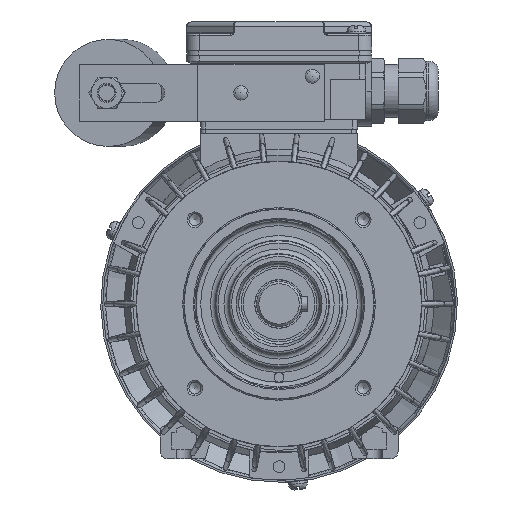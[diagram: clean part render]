
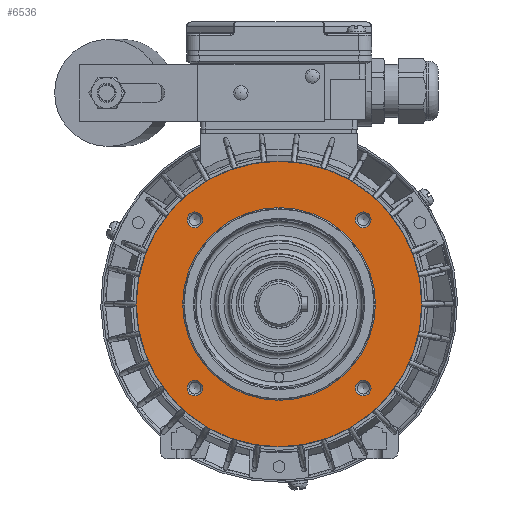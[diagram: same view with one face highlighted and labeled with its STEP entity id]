
A CAD part, left-side view. The second image highlights one B-rep face of the part: STEP entity #6536.
In plain terms, the highlighted planar face has unit normal (-1, 0, 0) as drawn and (0, -1, 0) by its records, which use the part's own axes.
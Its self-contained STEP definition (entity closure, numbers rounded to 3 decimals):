
#6536 = ADVANCED_FACE( '', ( #13790, #13791, #13792, #13793, #13794, #13795 ), #13796, .T. );
#13790 = FACE_BOUND( '', #34993, .T. );
#13791 = FACE_BOUND( '', #34994, .T. );
#13792 = FACE_BOUND( '', #34995, .T. );
#13793 = FACE_BOUND( '', #34996, .T. );
#13794 = FACE_BOUND( '', #34997, .T. );
#13795 = FACE_OUTER_BOUND( '', #34998, .T. );
#13796 = PLANE( '', #34999 );
#34993 = EDGE_LOOP( '', ( #61228 ) );
#34994 = EDGE_LOOP( '', ( #61229 ) );
#34995 = EDGE_LOOP( '', ( #61230 ) );
#34996 = EDGE_LOOP( '', ( #61231 ) );
#34997 = EDGE_LOOP( '', ( #61232 ) );
#34998 = EDGE_LOOP( '', ( #61233 ) );
#34999 = AXIS2_PLACEMENT_3D( '', #61234, #61235, #61236 );
#61228 = ORIENTED_EDGE( '', *, *, #71782, .T. );
#61229 = ORIENTED_EDGE( '', *, *, #70233, .T. );
#61230 = ORIENTED_EDGE( '', *, *, #77463, .T. );
#61231 = ORIENTED_EDGE( '', *, *, #75780, .T. );
#61232 = ORIENTED_EDGE( '', *, *, #74654, .T. );
#61233 = ORIENTED_EDGE( '', *, *, #71107, .T. );
#61234 = CARTESIAN_POINT( '', ( 0., 3., 40. ) );
#61235 = DIRECTION( '', ( 0., -1., 0. ) );
#61236 = DIRECTION( '', ( 0., 0., -1. ) );
#70233 = EDGE_CURVE( '', #79944, #79944, #79945, .F. );
#71107 = EDGE_CURVE( '', #81510, #81510, #81511, .T. );
#71782 = EDGE_CURVE( '', #82685, #82685, #82686, .F. );
#74654 = EDGE_CURVE( '', #87367, #87367, #87368, .F. );
#75780 = EDGE_CURVE( '', #88994, #88994, #88995, .F. );
#77463 = EDGE_CURVE( '', #91230, #91230, #91231, .F. );
#79944 = VERTEX_POINT( '', #94415 );
#79945 = CIRCLE( '', #94416, 3.3 );
#81510 = VERTEX_POINT( '', #97790 );
#81511 = CIRCLE( '', #97791, 60. );
#82685 = VERTEX_POINT( '', #99977 );
#82686 = CIRCLE( '', #99978, 3.3 );
#87367 = VERTEX_POINT( '', #111175 );
#87368 = CIRCLE( '', #111176, 40.5 );
#88994 = VERTEX_POINT( '', #116074 );
#88995 = CIRCLE( '', #116075, 3.3 );
#91230 = VERTEX_POINT( '', #123613 );
#91231 = CIRCLE( '', #123614, 3.3 );
#94415 = CARTESIAN_POINT( '', ( 35.355, 3., -38.655 ) );
#94416 = AXIS2_PLACEMENT_3D( '', #130608, #130609, #130610 );
#97790 = CARTESIAN_POINT( '', ( 0., 3., -60. ) );
#97791 = AXIS2_PLACEMENT_3D( '', #131835, #131836, #131837 );
#99977 = CARTESIAN_POINT( '', ( -35.355, 3., -38.655 ) );
#99978 = AXIS2_PLACEMENT_3D( '', #132674, #132675, #132676 );
#111175 = CARTESIAN_POINT( '', ( 0., 3., -40.5 ) );
#111176 = AXIS2_PLACEMENT_3D( '', #136174, #136175, #136176 );
#116074 = CARTESIAN_POINT( '', ( -35.355, 3., 32.055 ) );
#116075 = AXIS2_PLACEMENT_3D( '', #137334, #137335, #137336 );
#123613 = CARTESIAN_POINT( '', ( 35.355, 3., 32.055 ) );
#123614 = AXIS2_PLACEMENT_3D( '', #138904, #138905, #138906 );
#130608 = CARTESIAN_POINT( '', ( 35.355, 3., -35.355 ) );
#130609 = DIRECTION( '', ( 0., -1., 0. ) );
#130610 = DIRECTION( '', ( 0., 0., -1. ) );
#131835 = CARTESIAN_POINT( '', ( 0., 3., 0. ) );
#131836 = DIRECTION( '', ( 0., -1., 0. ) );
#131837 = DIRECTION( '', ( 0., 0., -1. ) );
#132674 = CARTESIAN_POINT( '', ( -35.355, 3., -35.355 ) );
#132675 = DIRECTION( '', ( 0., -1., 0. ) );
#132676 = DIRECTION( '', ( 0., 0., -1. ) );
#136174 = CARTESIAN_POINT( '', ( 0., 3., 0. ) );
#136175 = DIRECTION( '', ( 0., -1., 0. ) );
#136176 = DIRECTION( '', ( 0., 0., -1. ) );
#137334 = CARTESIAN_POINT( '', ( -35.355, 3., 35.355 ) );
#137335 = DIRECTION( '', ( 0., -1., 0. ) );
#137336 = DIRECTION( '', ( 0., 0., -1. ) );
#138904 = CARTESIAN_POINT( '', ( 35.355, 3., 35.355 ) );
#138905 = DIRECTION( '', ( 0., -1., 0. ) );
#138906 = DIRECTION( '', ( 0., 0., -1. ) );
